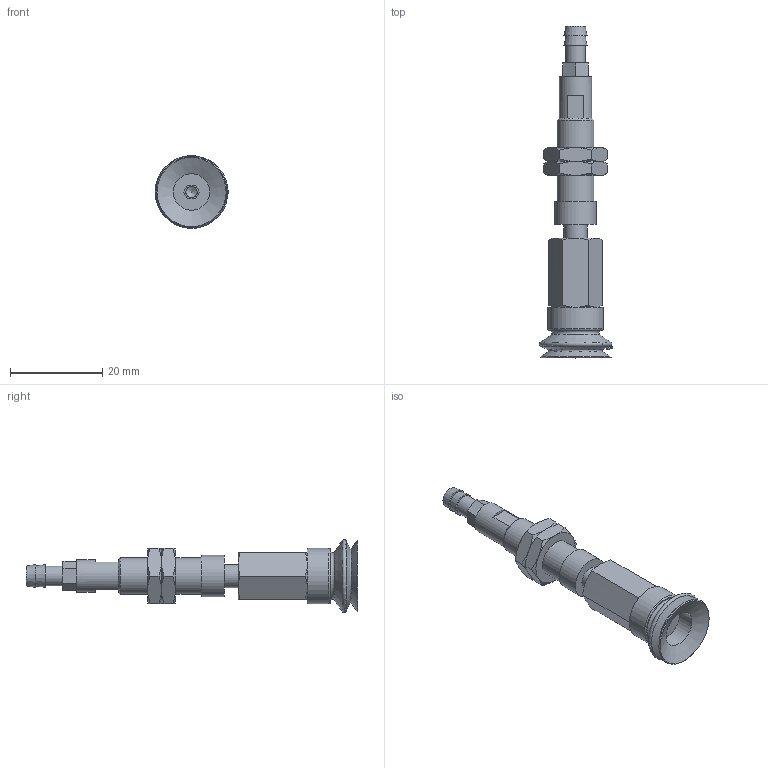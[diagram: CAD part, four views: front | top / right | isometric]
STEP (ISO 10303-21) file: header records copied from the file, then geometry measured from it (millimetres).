
FILE_DESCRIPTION(('STEP AP203'),'1');
FILE_NAME('-T.stp','2025-08-27T07:35:03',(' '),(' '),'Spatial InterOp 3D',' ',' ');
FILE_SCHEMA(('CONFIG_CONTROL_DESIGN'));
Length unit declared in the file: millimetre
Products named in the file (8): BNABPJTS-15-3-※-T; ADAPTER; NAPCTS-10-3-MBODY; Adapter-15-NAPJ; NUT-NAPJ-15-3-s; NAPJTS-15-3-FBODY; BPJG-15-※; T
Assembly tree (8 placements, depth 2):
  BNABPJTS-15-3-※-T
    ADAPTER
    NAPCTS-10-3-MBODY
    Adapter-15-NAPJ
    NUT-NAPJ-15-3-s  x2
    NAPJTS-15-3-FBODY
    BPJG-15-※
    T
Bounding box: 15.99 x 72 x 15.79 mm (x, y, z)
Volume: 4426.8 mm3; surface area: 5082.8 mm2
Topology: 8 solids, 8 shells, 155 faces, 325 edges, 194 vertices
Faces by surface type: plane 62, cone 56, cylinder 18, torus 9, bspline 6, sphere 4
Full cylindrical faces by diameter (mm): 2.5 x1, 3 x1, 4.134 x2, 4.3 x1, 4.6 x1, 5 x4, 7 x1, 7.188 x2, 7.9 x1, 8 x2, 9 x1, 12 x1
Entity records: 4088 total; most frequent: CARTESIAN_POINT 1131, DIRECTION 544, ORIENTED_EDGE 452, AXIS2_PLACEMENT_3D 239, EDGE_CURVE 226, EDGE_LOOP 191, VERTEX_POINT 158, FACE_OUTER_BOUND 156
